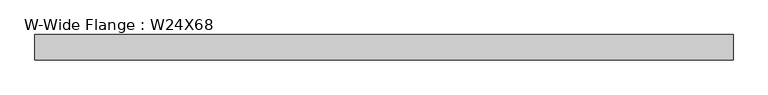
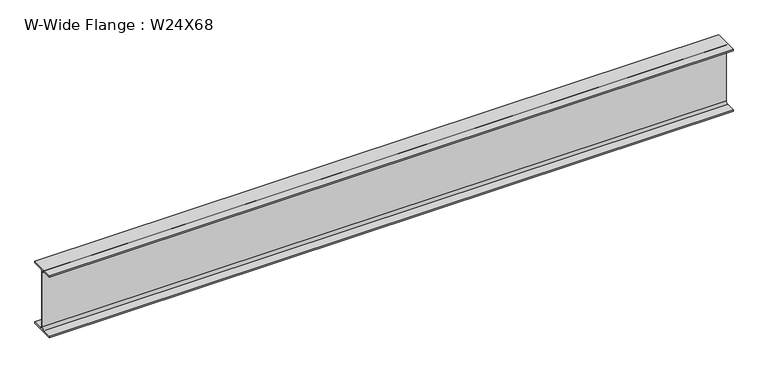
"""IFC4 building model written with IfcOpenShell, lengths in millimetres: beam geometry, W-Wide Flange : W24X68."""

from ifc_helpers import new_model, si_unit, point, frame, frame_2d, origin, place, context, project, spatial, polyline, circle_curve, trimmed, segment, composite_curve, outline, extrude, source, transform, mapped, element, save


def w_wide_flange_w24x68_4ed4cbdf(model_context):
    return source(origin(), model_context, "Body", "SweptSolid", [
        extrude(outline(composite_curve([segment(polyline([(113.919, -286.131), (113.919, -300.99), (-113.919, -300.99), (-113.919, -286.131), (-28.5115, -286.131)]), True, "CONTINUOUS"), segment(trimmed(circle_curve(frame_2d((-28.5115, -262.89)), 23.241), [point((-28.5115, -286.131))], [point((-5.2705, -262.89))], True, "CARTESIAN"), True, "CONTINUOUS"), segment(polyline([(-5.2705, -262.89), (-5.2705, 262.89)]), True, "CONTINUOUS"), segment(trimmed(circle_curve(frame_2d((-28.5115, 262.89)), 23.241), [point((-5.2705, 262.89))], [point((-28.5115, 286.131))], True, "CARTESIAN"), True, "CONTINUOUS"), segment(polyline([(-28.5115, 286.131), (-113.919, 286.131), (-113.919, 300.99), (113.919, 300.99), (113.919, 286.131), (28.5115, 286.131)]), True, "CONTINUOUS"), segment(trimmed(circle_curve(frame_2d((28.5115, 262.89)), 23.241), [point((28.5115, 286.131))], [point((5.2705, 262.89))], True, "CARTESIAN"), True, "CONTINUOUS"), segment(polyline([(5.2705, 262.89), (5.2705, -262.89)]), True, "CONTINUOUS"), segment(trimmed(circle_curve(frame_2d((28.5115, -262.89)), 23.241), [point((5.2705, -262.89))], [point((28.5115, -286.131))], True, "CARTESIAN"), True, "CONTINUOUS"), segment(polyline([(28.5115, -286.131), (113.919, -286.131)]), True, "CONTINUOUS")], self_intersect=False)), frame((-3135.63, 0.0, 0.0), z_axis=(1.0, 0.0, 0.0), x_axis=(0.0, 1.0, 0.0)), (0.0, 0.0, 1.0), 6271.26),
    ])


if __name__ == "__main__":
    model = new_model("IFC4")
    model_context = context("Model", 3, world=origin())
    ifc_project = project(units=[si_unit("LENGTHUNIT", "METRE", prefix="MILLI")], contexts=[model_context])
    site = spatial("IfcSite", under=ifc_project)
    building = spatial("IfcBuilding", under=site)
    placement = place(None, origin())
    w_wide_flange_w24x68_shape = w_wide_flange_w24x68_4ed4cbdf(model_context)
    element("IfcBeam", 1, ObjectType="W-Wide Flange : W24X68", at=placement, inside=building, context=model_context, shape_type="MappedRepresentation", body=[
        mapped(w_wide_flange_w24x68_shape, transform((0.0, 0.0, 0.0), x_axis=(1.0, 0.0, 0.0), y_axis=(0.0, 1.0, 0.0), z_axis=(0.0, 0.0, 1.0))),
    ])
    save(model, "model.ifc")
